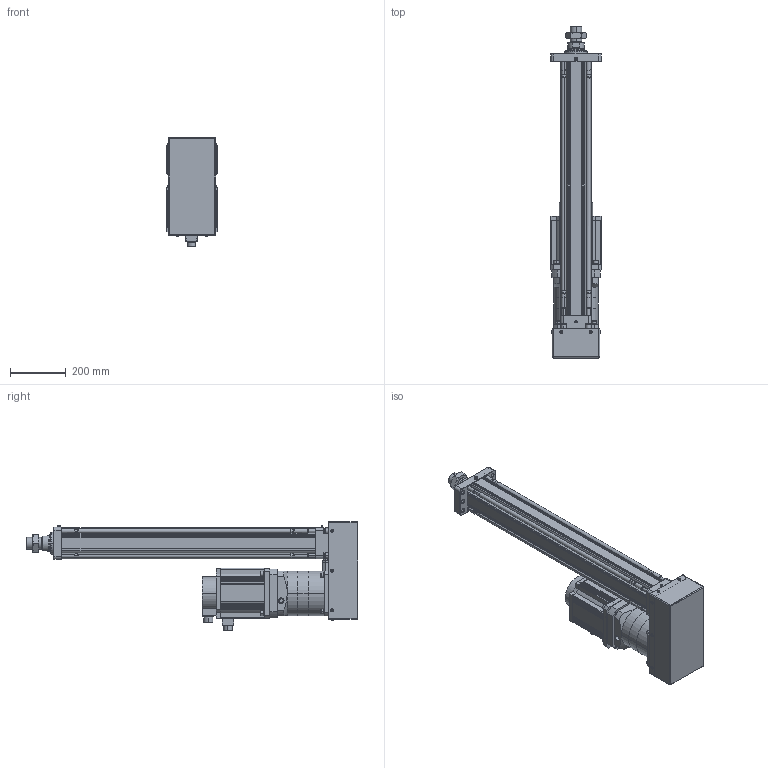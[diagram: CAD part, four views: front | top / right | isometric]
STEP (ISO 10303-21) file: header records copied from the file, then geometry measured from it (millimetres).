
FILE_DESCRIPTION((''),'2;1');
FILE_NAME('HEB100-100-D_ASM','2020-10-09T',('ASUS20200'),(''),'CREO PARAMETRIC BY PTC INC, 2014190','CREO PARAMETRIC BY PTC INC, 2014190','');
FILE_SCHEMA(('CONFIG_CONTROL_DESIGN'));
Length unit declared in the file: millimetre
Products named in the file (39): HEB100-D-P-001-X1; HEB100-D-P-002-X1; HEB100-D-P-008-X1; HEB100-D-P-003-X1; TD-12; SLM-01; YZ-M6X1; M12X60; M12X45; HEB100-D-P-004-X1; HEB100-D-P-005-X1; LM-M42X2; HEB100-100-D-P_ASM; HEB100-P-010-X1-160N; ______13_1; ______14_1; __-__6_1; __1_1__1; PLF160-___ASM; PLF160-__ASM; 130__2_1; _10_1; 180__-5982_1; 180__-10214_1; 21_5N___1; 180___-1762_1; 130___1; 180___-6000_1; SMA-452K20-GJ_1_2_ASM; ASM0001_ASM; TD-10; M10X45; M10X1_5-10; HEB125-P-009-X1-160N; BYT-M6X12; JM-M10-40; M12X1_75-18; M12X1_75-9; HEB100-100-D_ASM
Assembly tree (80 placements, depth 4):
  HEB100-100-D_ASM
    HEB100-100-D-P_ASM
      HEB100-D-P-001-X1
      HEB100-D-P-002-X1
      HEB100-D-P-008-X1  x4
      HEB100-D-P-003-X1
      TD-12  x8
      SLM-01
      YZ-M6X1
      M12X60  x4
      M12X45  x4
      HEB100-D-P-004-X1
      HEB100-D-P-005-X1
      LM-M42X2
    HEB100-P-010-X1-160N
    PLF160-__ASM
      PLF160-___ASM
        ______13_1
        ______14_1
        __-__6_1
        __1_1__1
    ASM0001_ASM
      SMA-452K20-GJ_1_2_ASM
        130__2_1
        _10_1
        180__-5982_1
        180__-10214_1
        21_5N___1
        180___-1762_1
        130___1
        180___-6000_1
    TD-10  x4
    M10X45  x4
    TD-12  x4
    M12X45  x4
    M10X1_5-10  x4
    HEB125-P-009-X1-160N
    BYT-M6X12  x10
    JM-M10-40
    M12X1_75-18
    M12X1_75-9
Bounding box: 180 x 1192 x 394.92 mm (x, y, z)
Volume: 13663457.5 mm3; surface area: 2774923.9 mm2
Topology: 75 solids, 107 shells, 2957 faces, 6996 edges, 4374 vertices
Faces by surface type: plane 1278, cylinder 881, cone 592, torus 174, bspline 22, sphere 10
Entity records: 63972 total; most frequent: CARTESIAN_POINT 12405, DIRECTION 11263, ORIENTED_EDGE 9978, EDGE_CURVE 5044, AXIS2_PLACEMENT_3D 4253, VERTEX_POINT 3186, VECTOR 2757, LINE 2757
